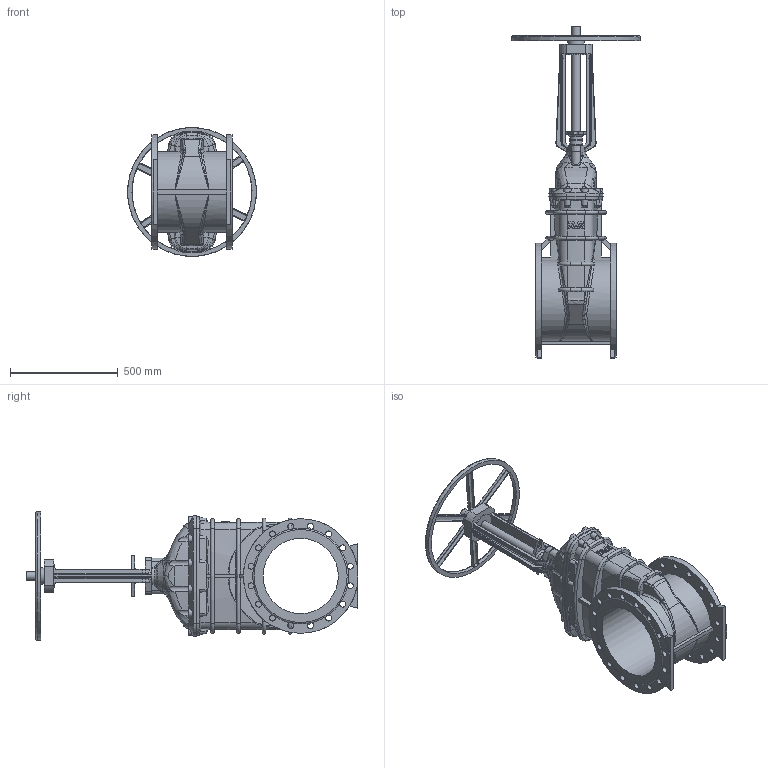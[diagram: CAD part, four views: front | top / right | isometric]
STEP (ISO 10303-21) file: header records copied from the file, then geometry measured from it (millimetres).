
FILE_DESCRIPTION (( 'STEP AP203' ), '1' );
FILE_NAME ('O_21_34_DN350_41XXXXX close_AA0.step', '2020-02-12T09:46:29', ( 'Windows User' ), ( 'AVK' ), 'SwSTEP 2.0', 'SolidWorks 2012', '' );
FILE_SCHEMA (( 'CONFIG_CONTROL_DESIGN' ));
Products named in the file (1): O_21_34_DN350_41XXXXX close_AA0
Bounding box: 598.51 x 1543.5 x 598.51 mm (x, y, z)
Volume: 62397761.3 mm3; surface area: 2996511.5 mm2
Topology: 1 solids, 1 shells, 828 faces, 2332 edges, 1476 vertices
Faces by surface type: plane 234, cylinder 196, bspline 182, cone 160, torus 52, sphere 4
Full cylindrical faces by diameter (mm): 28 x32, 40 x2, 55.9 x1, 60 x1, 64 x1, 77 x1, 105 x1, 350 x1, 533 x2
Entity records: 38575 total; most frequent: CARTESIAN_POINT 20293, ORIENTED_EDGE 4362, DIRECTION 3056, EDGE_CURVE 2181, VERTEX_POINT 1399, AXIS2_PLACEMENT_3D 1236, EDGE_LOOP 934, FACE_OUTER_BOUND 862
